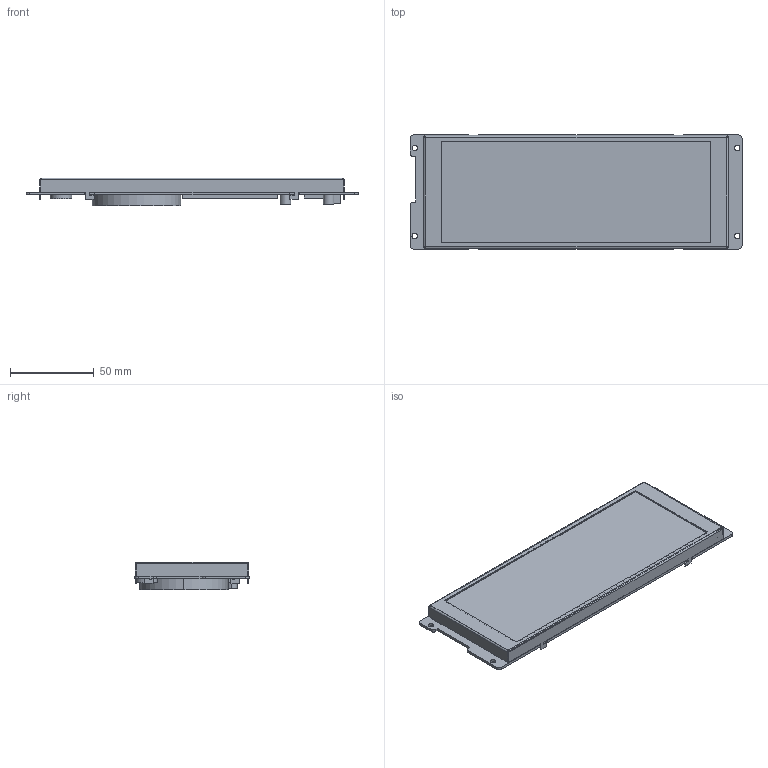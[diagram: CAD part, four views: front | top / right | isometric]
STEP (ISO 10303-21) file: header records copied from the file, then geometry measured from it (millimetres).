
FILE_DESCRIPTION((''),'2;1');
FILE_NAME('6-8_ASM20191016_ASM','2024-10-21T',('Administrator'),(''),'PRO/ENGINEER BY PARAMETRIC TECHNOLOGY CORPORATION, 2014320','PRO/ENGINEER BY PARAMETRIC TECHNOLOGY CORPORATION, 2014320','');
FILE_SCHEMA(('CONFIG_CONTROL_DESIGN','SHAPE_APPEARANCE_LAYERS_GROUPS'));
Length unit declared in the file: millimetre
Products named in the file (5): 6-8-BOX_28; LCM_3_2; 6-8_ASM_24_ASM; PCB241021; 6-8_ASM20191016_ASM
Assembly tree (4 placements, depth 3):
  6-8_ASM20191016_ASM
    6-8_ASM_24_ASM
      6-8-BOX_28
      LCM_3_2
    PCB241021
Bounding box: 198.8 x 68.3 x 16.5 mm (x, y, z)
Volume: 104563.9 mm3; surface area: 70266.3 mm2
Topology: 3 solids, 3 shells, 227 faces, 598 edges, 388 vertices
Faces by surface type: plane 159, cylinder 44, bspline 24
Entity records: 9691 total; most frequent: CARTESIAN_POINT 2147, ORIENTED_EDGE 1196, DIRECTION 1050, PRESENTATION_STYLE_ASSIGNMENT 604, STYLED_ITEM 602, CURVE_STYLE 598, EDGE_CURVE 598, VECTOR 478
